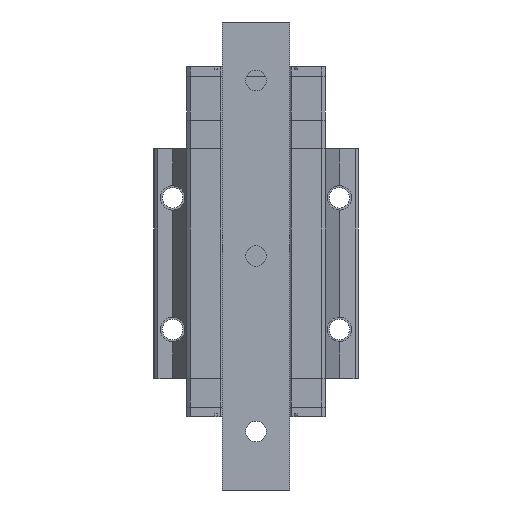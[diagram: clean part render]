
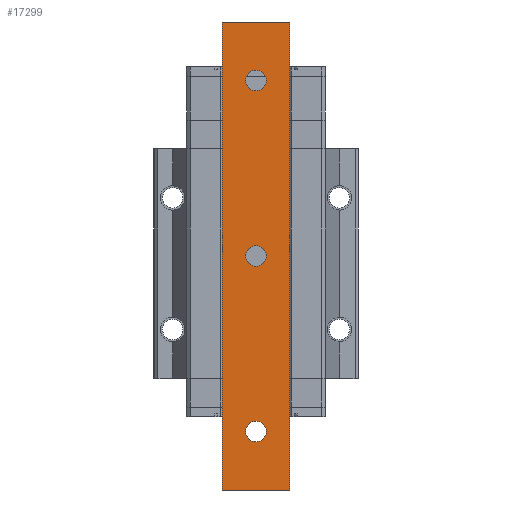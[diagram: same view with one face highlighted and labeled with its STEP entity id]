
A CAD part, front view. The second image highlights one B-rep face of the part: STEP entity #17299.
In plain terms, the highlighted planar face has unit normal (0, -1, 0).
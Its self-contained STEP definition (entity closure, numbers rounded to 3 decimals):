
#84 = CARTESIAN_POINT ( 'NONE',  ( 0., -5.6, 3.5 ) ) ;
#765 = DIRECTION ( 'NONE',  ( 0., 0., 1. ) ) ;
#1397 = EDGE_CURVE ( 'NONE', #20630, #19836, #6384, .T. ) ;
#1596 = DIRECTION ( 'NONE',  ( 1., 0., 0. ) ) ;
#2258 = AXIS2_PLACEMENT_3D ( 'NONE', #17725, #20154, #22586 ) ;
#2497 = VERTEX_POINT ( 'NONE', #26110 ) ;
#2793 = LINE ( 'NONE', #25934, #8549 ) ;
#2807 = FACE_BOUND ( 'NONE', #11442, .T. ) ;
#2827 = CARTESIAN_POINT ( 'NONE',  ( 11.5, -5.6, -80. ) ) ;
#3219 = CARTESIAN_POINT ( 'NONE',  ( 0., -5.6, 56.5 ) ) ;
#3275 = DIRECTION ( 'NONE',  ( 0., 1., 0. ) ) ;
#3364 = CIRCLE ( 'NONE', #10061, 3.5 ) ;
#4068 = DIRECTION ( 'NONE',  ( 0., 1., 0. ) ) ;
#4971 = CARTESIAN_POINT ( 'NONE',  ( -11.5, -5.6, -80. ) ) ;
#5017 = ORIENTED_EDGE ( 'NONE', *, *, #25582, .T. ) ;
#5165 = DIRECTION ( 'NONE',  ( 0., 0., 1. ) ) ;
#5510 = DIRECTION ( 'NONE',  ( 0., -1., 0. ) ) ;
#5632 = EDGE_CURVE ( 'NONE', #2497, #19836, #19715, .T. ) ;
#6099 = AXIS2_PLACEMENT_3D ( 'NONE', #6157, #11129, #14204 ) ;
#6157 = CARTESIAN_POINT ( 'NONE',  ( 0., -5.6, 60. ) ) ;
#6384 = LINE ( 'NONE', #14832, #15360 ) ;
#7456 = CARTESIAN_POINT ( 'NONE',  ( 0., -5.6, -63.5 ) ) ;
#7546 = DIRECTION ( 'NONE',  ( 1., 0., 0. ) ) ;
#7753 = EDGE_LOOP ( 'NONE', ( #23274, #12326 ) ) ;
#8481 = EDGE_CURVE ( 'NONE', #31518, #21429, #31489, .T. ) ;
#8549 = VECTOR ( 'NONE', #1596, 1000. ) ;
#9204 = CARTESIAN_POINT ( 'NONE',  ( 0., -5.6, 0. ) ) ;
#9854 = DIRECTION ( 'NONE',  ( 0., 1., 0. ) ) ;
#10061 = AXIS2_PLACEMENT_3D ( 'NONE', #9204, #4068, #14146 ) ;
#10154 = LINE ( 'NONE', #16202, #10944 ) ;
#10262 = CARTESIAN_POINT ( 'NONE',  ( 0., -5.6, -60. ) ) ;
#10480 = FACE_OUTER_BOUND ( 'NONE', #19025, .T. ) ;
#10944 = VECTOR ( 'NONE', #11867, 1000. ) ;
#11129 = DIRECTION ( 'NONE',  ( 0., 1., 0. ) ) ;
#11442 = EDGE_LOOP ( 'NONE', ( #19829, #16898 ) ) ;
#11867 = DIRECTION ( 'NONE',  ( 0., 0., 1. ) ) ;
#12326 = ORIENTED_EDGE ( 'NONE', *, *, #8481, .T. ) ;
#12505 = VERTEX_POINT ( 'NONE', #3219 ) ;
#12800 = DIRECTION ( 'NONE',  ( 0., 0., 1. ) ) ;
#12836 = VERTEX_POINT ( 'NONE', #28829 ) ;
#13002 = CARTESIAN_POINT ( 'NONE',  ( 0., -5.6, 60. ) ) ;
#13295 = CARTESIAN_POINT ( 'NONE',  ( 0., -5.6, -3.5 ) ) ;
#14092 = DIRECTION ( 'NONE',  ( 1., 0., 0. ) ) ;
#14146 = DIRECTION ( 'NONE',  ( 0., 0., 1. ) ) ;
#14148 = ORIENTED_EDGE ( 'NONE', *, *, #29298, .T. ) ;
#14204 = DIRECTION ( 'NONE',  ( 0., 0., 1. ) ) ;
#14292 = AXIS2_PLACEMENT_3D ( 'NONE', #10262, #19765, #12800 ) ;
#14399 = EDGE_CURVE ( 'NONE', #16223, #18942, #28291, .T. ) ;
#14832 = CARTESIAN_POINT ( 'NONE',  ( 11.5, -5.6, -80. ) ) ;
#15038 = CARTESIAN_POINT ( 'NONE',  ( 0., -5.6, -60. ) ) ;
#15163 = ORIENTED_EDGE ( 'NONE', *, *, #1397, .T. ) ;
#15360 = VECTOR ( 'NONE', #5165, 1000. ) ;
#15371 = CIRCLE ( 'NONE', #20190, 3.5 ) ;
#15469 = CARTESIAN_POINT ( 'NONE',  ( 11.5, -5.6, 80. ) ) ;
#15628 = ORIENTED_EDGE ( 'NONE', *, *, #24081, .T. ) ;
#15777 = CIRCLE ( 'NONE', #22601, 3.5 ) ;
#16202 = CARTESIAN_POINT ( 'NONE',  ( -11.5, -5.6, -80. ) ) ;
#16223 = VERTEX_POINT ( 'NONE', #13295 ) ;
#16593 = CARTESIAN_POINT ( 'NONE',  ( -11.5, -5.6, -80. ) ) ;
#16898 = ORIENTED_EDGE ( 'NONE', *, *, #14399, .T. ) ;
#17299 = ADVANCED_FACE ( 'NONE', ( #19882, #2807, #21755, #10480 ), #26380, .T. ) ;
#17725 = CARTESIAN_POINT ( 'NONE',  ( 0., -5.6, 0. ) ) ;
#18614 = CARTESIAN_POINT ( 'NONE',  ( -11.5, -5.6, 80. ) ) ;
#18942 = VERTEX_POINT ( 'NONE', #84 ) ;
#19025 = EDGE_LOOP ( 'NONE', ( #15163, #23926, #21434, #5017 ) ) ;
#19441 = VERTEX_POINT ( 'NONE', #4971 ) ;
#19715 = LINE ( 'NONE', #18614, #30544 ) ;
#19765 = DIRECTION ( 'NONE',  ( 0., 1., 0. ) ) ;
#19829 = ORIENTED_EDGE ( 'NONE', *, *, #27288, .T. ) ;
#19836 = VERTEX_POINT ( 'NONE', #15469 ) ;
#19882 = FACE_BOUND ( 'NONE', #7753, .T. ) ;
#20154 = DIRECTION ( 'NONE',  ( 0., 1., 0. ) ) ;
#20190 = AXIS2_PLACEMENT_3D ( 'NONE', #13002, #3275, #765 ) ;
#20630 = VERTEX_POINT ( 'NONE', #2827 ) ;
#21429 = VERTEX_POINT ( 'NONE', #30128 ) ;
#21434 = ORIENTED_EDGE ( 'NONE', *, *, #28397, .F. ) ;
#21755 = FACE_BOUND ( 'NONE', #25802, .T. ) ;
#22586 = DIRECTION ( 'NONE',  ( 0., 0., 1. ) ) ;
#22601 = AXIS2_PLACEMENT_3D ( 'NONE', #15038, #9854, #29713 ) ;
#23274 = ORIENTED_EDGE ( 'NONE', *, *, #23384, .T. ) ;
#23384 = EDGE_CURVE ( 'NONE', #21429, #31518, #15777, .T. ) ;
#23926 = ORIENTED_EDGE ( 'NONE', *, *, #5632, .F. ) ;
#24081 = EDGE_CURVE ( 'NONE', #12505, #12836, #15371, .T. ) ;
#25582 = EDGE_CURVE ( 'NONE', #19441, #20630, #2793, .T. ) ;
#25802 = EDGE_LOOP ( 'NONE', ( #14148, #15628 ) ) ;
#25934 = CARTESIAN_POINT ( 'NONE',  ( -11.5, -5.6, -80. ) ) ;
#26110 = CARTESIAN_POINT ( 'NONE',  ( -11.5, -5.6, 80. ) ) ;
#26380 = PLANE ( 'NONE',  #26602 ) ;
#26602 = AXIS2_PLACEMENT_3D ( 'NONE', #16593, #5510, #7546 ) ;
#27288 = EDGE_CURVE ( 'NONE', #18942, #16223, #3364, .T. ) ;
#28291 = CIRCLE ( 'NONE', #2258, 3.5 ) ;
#28397 = EDGE_CURVE ( 'NONE', #19441, #2497, #10154, .T. ) ;
#28829 = CARTESIAN_POINT ( 'NONE',  ( 0., -5.6, 63.5 ) ) ;
#29039 = CIRCLE ( 'NONE', #6099, 3.5 ) ;
#29298 = EDGE_CURVE ( 'NONE', #12836, #12505, #29039, .T. ) ;
#29713 = DIRECTION ( 'NONE',  ( 0., 0., 1. ) ) ;
#30128 = CARTESIAN_POINT ( 'NONE',  ( 0., -5.6, -56.5 ) ) ;
#30544 = VECTOR ( 'NONE', #14092, 1000. ) ;
#31489 = CIRCLE ( 'NONE', #14292, 3.5 ) ;
#31518 = VERTEX_POINT ( 'NONE', #7456 ) ;
